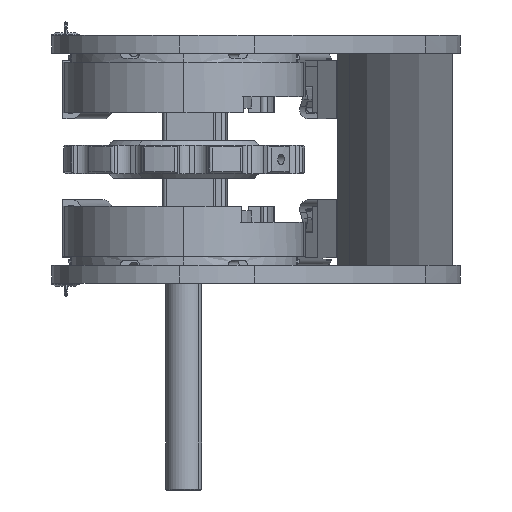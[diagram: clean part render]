
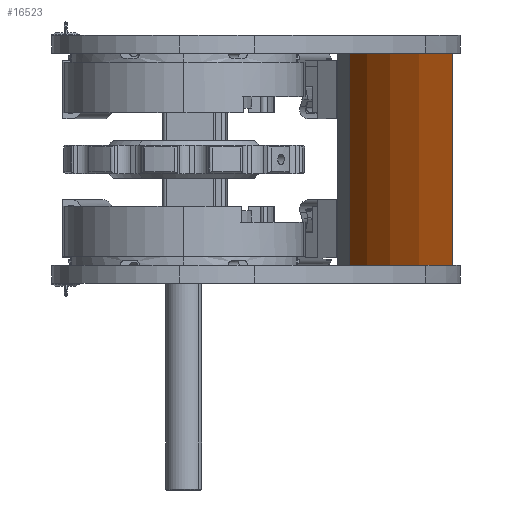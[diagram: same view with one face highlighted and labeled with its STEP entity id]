
A CAD part, left-side view. The second image highlights one B-rep face of the part: STEP entity #16523.
In plain terms, the highlighted cylindrical face has radius 126 mm (diameter 252 mm), a partial arc.
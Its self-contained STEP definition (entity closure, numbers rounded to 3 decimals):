
#4990 = VERTEX_POINT ( 'NONE', #24314 ) ;
#5075 = VERTEX_POINT ( 'NONE', #24399 ) ;
#5096 = VERTEX_POINT ( 'NONE', #24420 ) ;
#5147 = VERTEX_POINT ( 'NONE', #24471 ) ;
#5877 = EDGE_CURVE ( 'NONE', #5075, #5096, #17207, .T. ) ;
#5878 = EDGE_CURVE ( 'NONE', #5147, #5096, #17206, .T. ) ;
#5879 = EDGE_CURVE ( 'NONE', #4990, #5147, #17210, .T. ) ;
#5880 = EDGE_CURVE ( 'NONE', #4990, #5075, #17209, .T. ) ;
#9019 = ORIENTED_EDGE ( 'NONE', *, *, #5880, .T. ) ;
#9144 = ORIENTED_EDGE ( 'NONE', *, *, #5879, .F. ) ;
#9157 = ORIENTED_EDGE ( 'NONE', *, *, #5877, .T. ) ;
#9158 = ORIENTED_EDGE ( 'NONE', *, *, #5878, .F. ) ;
#9534 = CARTESIAN_POINT ( 'NONE',  ( 228.806, -177.546, 102.8 ) ) ;
#9535 = DIRECTION ( 'NONE',  ( 0., 0., -1. ) ) ;
#9536 = DIRECTION ( 'NONE',  ( -0.928, -0.374, 0. ) ) ;
#10840 = EDGE_LOOP ( 'NONE', ( #9157, #9158, #9144, #9019 ) ) ;
#16523 = ADVANCED_FACE ( 'NONE', ( #17670 ), #17671, .T. ) ;
#17206 = LINE ( 'NONE', #20872, #17208 ) ;
#17207 = CIRCLE ( 'NONE', #26927, 126. ) ;
#17208 = VECTOR ( 'NONE', #20873, 1000. ) ;
#17209 = LINE ( 'NONE', #20877, #17211 ) ;
#17210 = CIRCLE ( 'NONE', #26929, 126. ) ;
#17211 = VECTOR ( 'NONE', #20878, 1000. ) ;
#17670 = FACE_OUTER_BOUND ( 'NONE', #10840, .T. ) ;
#17671 = CYLINDRICAL_SURFACE ( 'NONE', #27242, 126. ) ;
#20869 = CARTESIAN_POINT ( 'NONE',  ( 228.806, -177.546, -15.2 ) ) ;
#20870 = DIRECTION ( 'NONE',  ( 0., 0., 1. ) ) ;
#20871 = DIRECTION ( 'NONE',  ( 0.928, 0.374, 0. ) ) ;
#20872 = CARTESIAN_POINT ( 'NONE',  ( 117.965, -117.628, 102.8 ) ) ;
#20873 = DIRECTION ( 'NONE',  ( 0., 0., -1. ) ) ;
#20874 = CARTESIAN_POINT ( 'NONE',  ( 228.806, -177.546, 102.8 ) ) ;
#20875 = DIRECTION ( 'NONE',  ( 0., 0., 1. ) ) ;
#20876 = DIRECTION ( 'NONE',  ( 0.928, 0.374, 0. ) ) ;
#20877 = CARTESIAN_POINT ( 'NONE',  ( 182.259, -60.459, 102.8 ) ) ;
#20878 = DIRECTION ( 'NONE',  ( 0., 0., -1. ) ) ;
#24314 = CARTESIAN_POINT ( 'NONE',  ( 182.259, -60.459, 102.8 ) ) ;
#24399 = CARTESIAN_POINT ( 'NONE',  ( 182.259, -60.459, -15.2 ) ) ;
#24420 = CARTESIAN_POINT ( 'NONE',  ( 117.965, -117.628, -15.2 ) ) ;
#24471 = CARTESIAN_POINT ( 'NONE',  ( 117.965, -117.628, 102.8 ) ) ;
#26927 = AXIS2_PLACEMENT_3D ( 'NONE', #20869, #20870, #20871 ) ;
#26929 = AXIS2_PLACEMENT_3D ( 'NONE', #20874, #20875, #20876 ) ;
#27242 = AXIS2_PLACEMENT_3D ( 'NONE', #9534, #9535, #9536 ) ;
